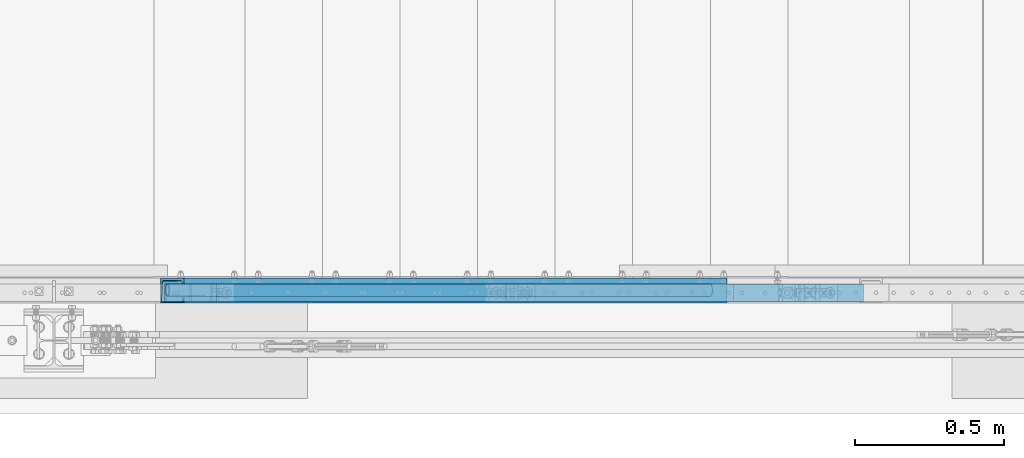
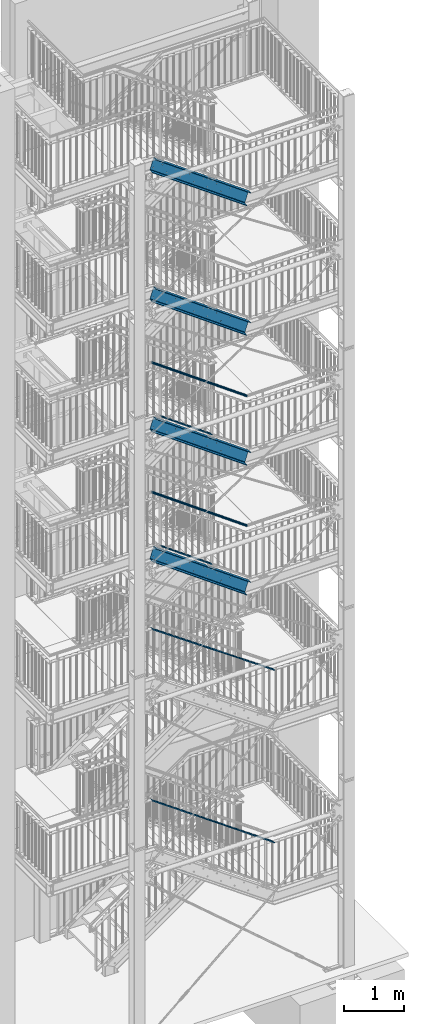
# One storey, part 121 of 831: 10 members, 64 openings.
"""IFC2X3 building model written with IfcOpenShell, lengths in millimetres."""

import ifcopenshell
import ifcopenshell.guid

model = None  # the IFC model being written
_history = None  # IfcOwnerHistory: only IFC2X3 demands one
_inside = {}  # id of a spatial element -> (the spatial element, [elements in it])
_under = {}  # id of a project, library or spatial element -> (it, [spatial elements below it])
_declared = {}  # id of a project -> (the project, [libraries it declares])
_typed = {}  # id of a type object -> (the type object, [elements of that type])
_made_of = {}  # id of a material, layer set ... -> (it, [elements and type objects made of it])


def new_model(schema):
    """Start an empty IFC model of exactly this schema.

    Asked for "IFC4X3", IfcOpenShell would pick the latest addendum, in which some entities
    have other attributes; the version numbers below select the first issue.
    IFC2X3 requires an IfcOwnerHistory on every rooted entity: one is made here for all.
    """
    global model, _history
    if schema == "IFC4X3":
        model = ifcopenshell.file(schema_version=(4, 3, 0, 0))
    else:
        model = ifcopenshell.file(schema=schema)
    _inside.clear()
    _under.clear()
    _declared.clear()
    _typed.clear()
    _made_of.clear()
    _history = None
    if model.schema == "IFC2X3":
        org = make("IfcOrganization", Name="unknown")
        user = make(
            "IfcPersonAndOrganization",
            ThePerson=make("IfcPerson", FamilyName="unknown"),
            TheOrganization=org,
        )
        app = make(
            "IfcApplication",
            ApplicationDeveloper=org,
            Version="unknown",
            ApplicationFullName="unknown",
            ApplicationIdentifier="unknown",
        )
        _history = make(
            "IfcOwnerHistory",
            OwningUser=user,
            OwningApplication=app,
            ChangeAction="ADDED",
            CreationDate=0,
        )
    return model


def make(cls, **values):
    """One entity of the class cls with the attributes given. An attribute that is None is left unset."""
    return model.create_entity(
        cls, **{name: value for name, value in values.items() if value is not None}
    )


def entity(cls, *values):
    """Any entity or typed value of the class cls, its attributes in the order of the schema. None: left unset."""
    e = model.create_entity(cls)
    for i, value in enumerate(values):
        if value is not None:
            e[i] = value
    return e


def rooted(cls, **values):
    """An entity with a GlobalId (a new one), such as an element, a storey or a relation."""
    return make(cls, GlobalId=ifcopenshell.guid.new(), OwnerHistory=_history, **values)


def si_unit(unit_type, name, prefix=None):
    """IfcSIUnit, for example si_unit("LENGTHUNIT", "METRE", prefix="MILLI")."""
    return make("IfcSIUnit", UnitType=unit_type, Prefix=prefix, Name=name)


def converted_unit(unit_type, name, factor, base, dimensions=None, offset=None):
    """IfcConversionBasedUnit, such as the inch: factor (a typed value) times the base unit."""
    return make(
        "IfcConversionBasedUnit"
        if offset is None
        else "IfcConversionBasedUnitWithOffset",
        ConversionOffset=offset,
        Dimensions=None
        if dimensions is None
        else entity("IfcDimensionalExponents", *dimensions),
        UnitType=unit_type,
        Name=name,
        ConversionFactor=make(
            "IfcMeasureWithUnit", ValueComponent=factor, UnitComponent=base
        ),
    )


def assignment(units):
    """IfcUnitAssignment: the units of a project."""
    return None if units is None else make("IfcUnitAssignment", Units=units)


def point(xyz):
    """IfcCartesianPoint."""
    return None if xyz is None else make("IfcCartesianPoint", Coordinates=xyz)


def direction(xyz):
    """IfcDirection."""
    return None if xyz is None else make("IfcDirection", DirectionRatios=xyz)


def frame(location, z_axis=None, x_axis=None):
    """IfcAxis2Placement3D, a coordinate frame: its origin and axes. An axis left out is left unset."""
    return make(
        "IfcAxis2Placement3D",
        Location=point(location),
        Axis=direction(z_axis),
        RefDirection=direction(x_axis),
    )


def frame_2d(location, x_axis=None):
    """IfcAxis2Placement2D, a coordinate frame in the plane: its origin and x axis."""
    return make(
        "IfcAxis2Placement2D", Location=point(location), RefDirection=direction(x_axis)
    )


def origin():
    """The frame at (0, 0, 0) with its axes left unset."""
    return frame((0.0, 0.0, 0.0))


def origin_with_axes():
    """The frame at (0, 0, 0) with the z axis (0, 0, 1) and the x axis (1, 0, 0) written out."""
    return frame((0.0, 0.0, 0.0), z_axis=(0.0, 0.0, 1.0), x_axis=(1.0, 0.0, 0.0))


def origin_2d():
    """The frame at (0, 0) in the plane with its x axis left unset."""
    return frame_2d((0.0, 0.0))


def origin_2d_with_axis():
    """The frame at (0, 0) in the plane with the x axis (1, 0) written out."""
    return frame_2d((0.0, 0.0), x_axis=(1.0, 0.0))


def place(relative_to, where):
    """IfcLocalPlacement: puts the frame where relative to a parent placement (None: the world)."""
    return make(
        "IfcLocalPlacement", PlacementRelTo=relative_to, RelativePlacement=where
    )


def context(
    kind, dimensions, precision=None, world=None, true_north=None, identifier=None
):
    """IfcGeometricRepresentationContext, for example the 3D "Model" context."""
    return make(
        "IfcGeometricRepresentationContext",
        ContextIdentifier=identifier,
        ContextType=kind,
        CoordinateSpaceDimension=dimensions,
        Precision=precision,
        WorldCoordinateSystem=world,
        TrueNorth=true_north,
    )


def project(units=None, contexts=None):
    """IfcProject with its units and contexts."""
    return rooted(
        "IfcProject",
        Name="project",
        RepresentationContexts=contexts,
        UnitsInContext=assignment(units),
    )


def spatial(cls, under=None, at=None, **own):
    """A site, building, storey or space (cls), placed at a placement, below another one or the project."""
    s = rooted(cls, ObjectPlacement=at, **own)
    if under is not None:
        _under.setdefault(under.id(), (under, []))[1].append(s)
    return s


def profile(cls, at=None, kind="AREA", **sizes):
    """A parametric profile (cls). Its sizes go by their IFC names, for example OverallWidth=200.0."""
    return make(cls, ProfileType=kind, Position=at, **sizes)


def rectangle(**sizes):
    """IfcRectangleProfileDef."""
    return profile("IfcRectangleProfileDef", **sizes)


def circle(**sizes):
    """IfcCircleProfileDef."""
    return profile("IfcCircleProfileDef", **sizes)


def hollow_circle(**sizes):
    """IfcCircleHollowProfileDef."""
    return profile("IfcCircleHollowProfileDef", **sizes)


def u_section(**sizes):
    """IfcUShapeProfileDef."""
    return profile("IfcUShapeProfileDef", **sizes)


def extrude(swept, where, along, depth):
    """IfcExtrudedAreaSolid: the profile swept, set in the frame where, extruded along a direction by depth."""
    return make(
        "IfcExtrudedAreaSolid",
        SweptArea=swept,
        Position=where,
        ExtrudedDirection=direction(along),
        Depth=depth,
    )


def clip(a, b, op="DIFFERENCE"):
    """IfcBooleanClippingResult: the solid a cut by the half space b."""
    return make(
        "IfcBooleanClippingResult", Operator=op, FirstOperand=a, SecondOperand=b
    )


def halfspace(plane, agree):
    """IfcHalfSpaceSolid: all space on one side of the plane z = 0 of the frame plane."""
    return make(
        "IfcHalfSpaceSolid",
        BaseSurface=make("IfcPlane", Position=plane),
        AgreementFlag=agree,
    )


def shape(context_of_items, identifier, shape_type, items):
    """IfcShapeRepresentation: the items that make up one representation, for example the "Body"."""
    return make(
        "IfcShapeRepresentation",
        ContextOfItems=context_of_items,
        RepresentationIdentifier=identifier,
        RepresentationType=shape_type,
        Items=items,
    )


def material(Name=None, Category=None):
    """IfcMaterial."""
    return make("IfcMaterial", Name=Name, Category=Category)


def made_of(thing, what):
    """Note that an element or type object is made of a material, layer set ...; save() writes the relation."""
    if what is not None:
        _made_of.setdefault(what.id(), (what, []))[1].append(thing)
    return thing


def element(
    cls,
    number,
    at=None,
    inside=None,
    cuts=None,
    type_object=None,
    material=None,
    context=None,
    identifier="Body",
    shape_type=None,
    held_by="IfcProductDefinitionShape",
    body=None,
    shapes=None,
    **own,
):
    """One element of the class cls, such as IfcWall. Its Tag is "e" and its number.

    at: its placement. inside: the storey or other place that contains it. cuts: it is an
    opening in that element (IfcRelVoidsElement). A single representation is given by context,
    identifier, shape_type and body (its items); several are given by shapes. held_by: the class
    of the entity that holds the representations. save() writes the other relations.
    """
    e = rooted(cls, Tag="e%d" % number, ObjectPlacement=at, **own)
    if body is not None:
        shapes = [shape(context, identifier, shape_type, body)]
    if shapes is not None:
        e.Representation = make(held_by, Representations=shapes)
    if inside is not None:
        _inside.setdefault(inside.id(), (inside, []))[1].append(e)
    if cuts is not None:
        rooted(
            "IfcRelVoidsElement", RelatingBuildingElement=cuts, RelatedOpeningElement=e
        )
    if type_object is not None:
        _typed.setdefault(type_object.id(), (type_object, []))[1].append(e)
    return made_of(e, material)


def aggregate(whole, parts):
    """IfcRelAggregates: a whole, such as a stair, and the parts it consists of."""
    return rooted("IfcRelAggregates", RelatingObject=whole, RelatedObjects=parts)


def save(model, path):
    """Write the relations noted so far, then the file.

    IfcRelAggregates (storeys below a building ...), IfcRelContainedInSpatialStructure (elements
    in a storey), IfcRelDefinesByType, IfcRelAssociatesMaterial and IfcRelDeclares: one each for
    every whole, place, type object, material and project.
    """
    for whole, parts in _under.values():
        aggregate(whole, parts)
    for where, things in _inside.values():
        rooted(
            "IfcRelContainedInSpatialStructure",
            RelatedElements=things,
            RelatingStructure=where,
        )
    for kind, things in _typed.values():
        rooted("IfcRelDefinesByType", RelatedObjects=things, RelatingType=kind)
    for what, things in _made_of.values():
        rooted("IfcRelAssociatesMaterial", RelatedObjects=things, RelatingMaterial=what)
    for by, libraries in _declared.values():
        rooted("IfcRelDeclares", RelatingContext=by, RelatedDefinitions=libraries)
    model.write(path)


model = new_model("IFC2X3")

# Units and contexts
model_context = context("Model", 3, precision=1e-09, world=origin_with_axes())
ifc_project = project(units=[si_unit("LENGTHUNIT", "METRE", prefix="MILLI"), si_unit("AREAUNIT", "SQUARE_METRE"), si_unit("VOLUMEUNIT", "CUBIC_METRE"), converted_unit("PLANEANGLEUNIT", "DEGREE", entity("IfcPlaneAngleMeasure", 0.01745329), si_unit("PLANEANGLEUNIT", "RADIAN"), dimensions=[0, 0, 0, 0, 0, 0, 0])], contexts=[model_context])

# Site, building, storey
site_placement = place(None, origin_with_axes())
site = spatial("IfcSite", under=ifc_project, at=site_placement, Name="Site", CompositionType="ELEMENT")
building_placement = place(site_placement, origin_with_axes())
building = spatial("IfcBuilding", under=site, at=building_placement, Name="Struktur 1", CompositionType="ELEMENT")
storey_placement = place(building_placement, origin_with_axes())
storey = spatial("IfcBuildingStorey", under=building, at=storey_placement, Name="Default Storey", CompositionType="ELEMENT", Elevation=0.0)

# Members
ifc_material = material(Name="S235JR")
member_1_placement = place(None, frame((7567.131328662, 4526.736971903, 6689.604420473), z_axis=(0.818063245, 0.0, -0.57512827), x_axis=(-0.57512827, 0.0, -0.818063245)))
element("IfcMember", 1, at=member_1_placement, inside=storey, material=ifc_material, Name="Railing_Kneerail_Stair#1014", ObjectType="Railing_Kneerail_Stair#1014", context=model_context, shape_type="SweptSolid", body=[
    extrude(rectangle(XDim=10.0, YDim=60.0, at=origin_2d()), origin(), (0.0, 0.0, -1.0), 2857.25112589),
])
member_2_placement = place(None, frame((7567.037819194, 4526.736971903, 3195.779456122), z_axis=(0.814635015, 0.0, -0.579973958), x_axis=(-0.579973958, 0.0, -0.814635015)))
element("IfcMember", 2, at=member_2_placement, inside=storey, material=ifc_material, Name="Railing_Kneerail_Stair#1015", ObjectType="Railing_Kneerail_Stair#1015", context=model_context, shape_type="SweptSolid", body=[
    extrude(rectangle(XDim=10.0, YDim=60.0, at=origin_2d()), origin(), (0.0, 0.0, -1.0), 2869.25593343),
])

# Member, openings
member_3_placement = place(None, frame((7252.357329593, 4554.436971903, 8386.450295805), z_axis=(-0.810350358, 0.0, 0.585945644), x_axis=(0.0, -1.0, 0.0)))
member_3 = element("IfcMember", 3, at=member_3_placement, inside=storey, material=ifc_material, Name="Stringer#1", ObjectType="Stringer#1", context=model_context, shape_type="Clipping", body=[
    clip(clip(extrude(u_section(Depth=240.0, FlangeWidth=85.0, WebThickness=9.5, FlangeThickness=13.0, FilletRadius=13.0, EdgeRadius=6.5, FlangeSlope=4.574, at=frame_2d((20.2, 0.0))), origin(), (0.0, 0.0, 1.0), 2765.811710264), halfspace(frame((4554.436971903, -9780.725399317, -2944.574754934), z_axis=(0.0, -0.307936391, 0.951406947), x_axis=(1.0, 0.0, 0.0)), True)), halfspace(frame((4554.436971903, -10438.724783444, -911.605598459), z_axis=(0.0, 0.307936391, -0.951406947), x_axis=(-1.0, 0.0, 0.0)), True)),
])
opening_1_placement = place(member_3_placement, frame((-22.8, -50.547583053, 2395.29207482), z_axis=(1.0, 0.0, 0.0), x_axis=(0.0, -0.585945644, 0.810350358)))
element("IfcOpeningElement", 4, at=opening_1_placement, cuts=member_3, ObjectType="Opening", context=model_context, shape_type="SweptSolid", body=[
    extrude(circle(Radius=7.001, at=origin_2d_with_axis()), origin(), (0.0, 0.0, 1.0), 10.5),
])
opening_2_placement = place(member_3_placement, frame((-22.8, 54.922632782, 1286.882388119), z_axis=(1.0, 0.0, 0.0), x_axis=(0.0, -0.585945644, 0.810350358)))
element("IfcOpeningElement", 5, at=opening_2_placement, cuts=member_3, ObjectType="Opening", context=model_context, shape_type="SweptSolid", body=[
    extrude(circle(Radius=7.001, at=origin_2d_with_axis()), origin(), (0.0, 0.0, 1.0), 10.5),
])
opening_3_placement = place(member_3_placement, frame((-22.8, -50.547583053, 1111.89657849), z_axis=(1.0, 0.0, 0.0), x_axis=(0.0, -0.585945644, 0.810350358)))
element("IfcOpeningElement", 6, at=opening_3_placement, cuts=member_3, ObjectType="Opening", context=model_context, shape_type="SweptSolid", body=[
    extrude(circle(Radius=7.001, at=origin_2d_with_axis()), origin(), (0.0, 0.0, 1.0), 10.5),
])
opening_4_placement = place(member_3_placement, frame((-22.8, -50.547583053, 791.047704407), z_axis=(1.0, 0.0, 0.0), x_axis=(0.0, -0.585945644, 0.810350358)))
element("IfcOpeningElement", 7, at=opening_4_placement, cuts=member_3, ObjectType="Opening", context=model_context, shape_type="SweptSolid", body=[
    extrude(circle(Radius=7.001, at=origin_2d_with_axis()), origin(), (0.0, 0.0, 1.0), 10.5),
])
opening_5_placement = place(member_3_placement, frame((-22.8, 54.922632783, 1928.580136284), z_axis=(1.0, 0.0, 0.0), x_axis=(0.0, -0.585945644, 0.810350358)))
element("IfcOpeningElement", 8, at=opening_5_placement, cuts=member_3, ObjectType="Opening", context=model_context, shape_type="SweptSolid", body=[
    extrude(circle(Radius=7.001, at=origin_2d_with_axis()), origin(), (0.0, 0.0, 1.0), 10.5),
])
opening_6_placement = place(member_3_placement, frame((-22.8, -50.547583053, 1432.745452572), z_axis=(1.0, 0.0, 0.0), x_axis=(0.0, -0.585945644, 0.810350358)))
element("IfcOpeningElement", 9, at=opening_6_placement, cuts=member_3, ObjectType="Opening", context=model_context, shape_type="SweptSolid", body=[
    extrude(circle(Radius=7.001, at=origin_2d_with_axis()), origin(), (0.0, 0.0, 1.0), 10.5),
])
opening_7_placement = place(member_3_placement, frame((-22.8, 54.922632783, 1607.731262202), z_axis=(1.0, 0.0, 0.0), x_axis=(0.0, -0.585945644, 0.810350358)))
element("IfcOpeningElement", 10, at=opening_7_placement, cuts=member_3, ObjectType="Opening", context=model_context, shape_type="SweptSolid", body=[
    extrude(circle(Radius=7.001, at=origin_2d_with_axis()), origin(), (0.0, 0.0, 1.0), 10.5),
])
opening_8_placement = place(member_3_placement, frame((-22.8, -50.547583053, 2074.443200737), z_axis=(1.0, 0.0, 0.0), x_axis=(0.0, -0.585945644, 0.810350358)))
element("IfcOpeningElement", 11, at=opening_8_placement, cuts=member_3, ObjectType="Opening", context=model_context, shape_type="SweptSolid", body=[
    extrude(circle(Radius=7.001, at=origin_2d_with_axis()), origin(), (0.0, 0.0, 1.0), 10.5),
])
opening_9_placement = place(member_3_placement, frame((-22.8, -50.547583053, 1753.594326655), z_axis=(1.0, 0.0, 0.0), x_axis=(0.0, -0.585945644, 0.810350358)))
element("IfcOpeningElement", 12, at=opening_9_placement, cuts=member_3, ObjectType="Opening", context=model_context, shape_type="SweptSolid", body=[
    extrude(circle(Radius=7.001, at=origin_2d_with_axis()), origin(), (0.0, 0.0, 1.0), 10.5),
])
opening_10_placement = place(member_3_placement, frame((-22.8, 54.922632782, 966.033514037), z_axis=(1.0, 0.0, 0.0), x_axis=(0.0, -0.585945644, 0.810350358)))
element("IfcOpeningElement", 13, at=opening_10_placement, cuts=member_3, ObjectType="Opening", context=model_context, shape_type="SweptSolid", body=[
    extrude(circle(Radius=7.001, at=origin_2d_with_axis()), origin(), (0.0, 0.0, 1.0), 10.5),
])
opening_11_placement = place(member_3_placement, frame((-22.8, 54.922632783, 2249.429010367), z_axis=(1.0, 0.0, 0.0), x_axis=(0.0, -0.585945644, 0.810350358)))
element("IfcOpeningElement", 14, at=opening_11_placement, cuts=member_3, ObjectType="Opening", context=model_context, shape_type="SweptSolid", body=[
    extrude(circle(Radius=7.001, at=origin_2d_with_axis()), origin(), (0.0, 0.0, 1.0), 10.5),
])
opening_12_placement = place(member_3_placement, frame((-22.8, 54.922632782, 645.184639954), z_axis=(1.0, 0.0, 0.0), x_axis=(0.0, -0.585945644, 0.810350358)))
element("IfcOpeningElement", 15, at=opening_12_placement, cuts=member_3, ObjectType="Opening", context=model_context, shape_type="SweptSolid", body=[
    extrude(circle(Radius=7.001, at=origin_2d_with_axis()), origin(), (0.0, 0.0, 1.0), 10.5),
])
opening_13_placement = place(member_3_placement, frame((27.7, 120.5, 1220.97518133), z_axis=(0.0, 1.0, 0.0), x_axis=(-1.0, 0.0, 0.0)))
element("IfcOpeningElement", 16, at=opening_13_placement, cuts=member_3, ObjectType="Opening", context=model_context, shape_type="SweptSolid", body=[
    extrude(circle(Radius=7.001, at=frame_2d((0.0, 7.001), x_axis=(1.0, 0.0))), origin(), (0.0, 0.0, -1.0), 14.0),
])
opening_14_placement = place(member_3_placement, frame((27.7, 120.5, 1120.97518133), z_axis=(0.0, 1.0, 0.0), x_axis=(-1.0, 0.0, 0.0)))
element("IfcOpeningElement", 17, at=opening_14_placement, cuts=member_3, ObjectType="Opening", context=model_context, shape_type="SweptSolid", body=[
    extrude(circle(Radius=7.001, at=frame_2d((0.0, 7.001), x_axis=(1.0, 0.0))), origin(), (0.0, 0.0, -1.0), 14.0),
])
opening_15_placement = place(member_3_placement, frame((27.7, 120.5, 2436.498976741), z_axis=(0.0, 1.0, 0.0), x_axis=(-1.0, 0.0, 0.0)))
element("IfcOpeningElement", 18, at=opening_15_placement, cuts=member_3, ObjectType="Opening", context=model_context, shape_type="SweptSolid", body=[
    extrude(circle(Radius=7.001, at=frame_2d((0.0, 7.001), x_axis=(1.0, 0.0))), origin(), (0.0, 0.0, -1.0), 14.0),
])
opening_16_placement = place(member_3_placement, frame((27.7, 120.5, 2336.498976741), z_axis=(0.0, 1.0, 0.0), x_axis=(-1.0, 0.0, 0.0)))
element("IfcOpeningElement", 19, at=opening_16_placement, cuts=member_3, ObjectType="Opening", context=model_context, shape_type="SweptSolid", body=[
    extrude(circle(Radius=7.001, at=frame_2d((0.0, 7.001), x_axis=(1.0, 0.0))), origin(), (0.0, 0.0, -1.0), 14.0),
])

member_4_placement = place(None, frame((7252.657044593, 4554.436971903, 11016.099256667), z_axis=(-0.810878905, 0.0, 0.585213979), x_axis=(0.0, -1.0, 0.0)))
member_4 = element("IfcMember", 20, at=member_4_placement, inside=storey, material=ifc_material, Name="Stringer#1", ObjectType="Stringer#1", context=model_context, shape_type="Clipping", body=[
    clip(clip(extrude(u_section(Depth=240.0, FlangeWidth=85.0, WebThickness=9.5, FlangeThickness=13.0, FilletRadius=13.0, EdgeRadius=6.5, FlangeSlope=4.574, at=frame_2d((20.2, 0.0))), origin(), (0.0, 0.0, 1.0), 2764.271886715), halfspace(frame((4554.436971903, -12161.289703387, -3708.993877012), z_axis=(0.0, -0.307506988, 0.951545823), x_axis=(1.0, 0.0, 0.0)), True)), halfspace(frame((4554.436971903, -12818.039088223, -1676.756695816), z_axis=(0.0, 0.307506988, -0.951545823), x_axis=(-1.0, 0.0, 0.0)), True)),
])
opening_17_placement = place(member_4_placement, frame((-22.8, -50.419345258, 1111.679598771), z_axis=(1.0, 0.0, 0.0), x_axis=(0.0, -0.585213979, 0.810878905)))
element("IfcOpeningElement", 21, at=opening_17_placement, cuts=member_4, ObjectType="Opening", context=model_context, shape_type="SweptSolid", body=[
    extrude(circle(Radius=7.001, at=origin_2d_with_axis()), origin(), (0.0, 0.0, 1.0), 10.5),
])
opening_18_placement = place(member_4_placement, frame((-22.8, -50.419345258, 1752.959075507), z_axis=(1.0, 0.0, 0.0), x_axis=(0.0, -0.585213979, 0.810878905)))
element("IfcOpeningElement", 22, at=opening_18_placement, cuts=member_4, ObjectType="Opening", context=model_context, shape_type="SweptSolid", body=[
    extrude(circle(Radius=7.001, at=origin_2d_with_axis()), origin(), (0.0, 0.0, 1.0), 10.5),
])
opening_19_placement = place(member_4_placement, frame((-22.8, 54.919170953, 645.081657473), z_axis=(1.0, 0.0, 0.0), x_axis=(0.0, -0.585213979, 0.810878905)))
element("IfcOpeningElement", 23, at=opening_19_placement, cuts=member_4, ObjectType="Opening", context=model_context, shape_type="SweptSolid", body=[
    extrude(circle(Radius=7.001, at=origin_2d_with_axis()), origin(), (0.0, 0.0, 1.0), 10.5),
])
opening_20_placement = place(member_4_placement, frame((-22.8, 54.919170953, 2248.280349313), z_axis=(1.0, 0.0, 0.0), x_axis=(0.0, -0.585213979, 0.810878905)))
element("IfcOpeningElement", 24, at=opening_20_placement, cuts=member_4, ObjectType="Opening", context=model_context, shape_type="SweptSolid", body=[
    extrude(circle(Radius=7.001, at=origin_2d_with_axis()), origin(), (0.0, 0.0, 1.0), 10.5),
])
opening_21_placement = place(member_4_placement, frame((-22.8, -50.419345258, 791.039860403), z_axis=(1.0, 0.0, 0.0), x_axis=(0.0, -0.585213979, 0.810878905)))
element("IfcOpeningElement", 25, at=opening_21_placement, cuts=member_4, ObjectType="Opening", context=model_context, shape_type="SweptSolid", body=[
    extrude(circle(Radius=7.001, at=origin_2d_with_axis()), origin(), (0.0, 0.0, 1.0), 10.5),
])
opening_22_placement = place(member_4_placement, frame((-22.8, -50.419345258, 1432.319337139), z_axis=(1.0, 0.0, 0.0), x_axis=(0.0, -0.585213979, 0.810878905)))
element("IfcOpeningElement", 26, at=opening_22_placement, cuts=member_4, ObjectType="Opening", context=model_context, shape_type="SweptSolid", body=[
    extrude(circle(Radius=7.001, at=origin_2d_with_axis()), origin(), (0.0, 0.0, 1.0), 10.5),
])
opening_23_placement = place(member_4_placement, frame((-22.8, -50.419345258, 2394.238552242), z_axis=(1.0, 0.0, 0.0), x_axis=(0.0, -0.585213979, 0.810878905)))
element("IfcOpeningElement", 27, at=opening_23_placement, cuts=member_4, ObjectType="Opening", context=model_context, shape_type="SweptSolid", body=[
    extrude(circle(Radius=7.001, at=origin_2d_with_axis()), origin(), (0.0, 0.0, 1.0), 10.5),
])
opening_24_placement = place(member_4_placement, frame((-22.8, 54.919170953, 1607.000872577), z_axis=(1.0, 0.0, 0.0), x_axis=(0.0, -0.585213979, 0.810878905)))
element("IfcOpeningElement", 28, at=opening_24_placement, cuts=member_4, ObjectType="Opening", context=model_context, shape_type="SweptSolid", body=[
    extrude(circle(Radius=7.001, at=origin_2d_with_axis()), origin(), (0.0, 0.0, 1.0), 10.5),
])
opening_25_placement = place(member_4_placement, frame((-22.8, 54.919170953, 1927.640610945), z_axis=(1.0, 0.0, 0.0), x_axis=(0.0, -0.585213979, 0.810878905)))
element("IfcOpeningElement", 29, at=opening_25_placement, cuts=member_4, ObjectType="Opening", context=model_context, shape_type="SweptSolid", body=[
    extrude(circle(Radius=7.001, at=origin_2d_with_axis()), origin(), (0.0, 0.0, 1.0), 10.5),
])
opening_26_placement = place(member_4_placement, frame((-22.8, 54.919170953, 965.721395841), z_axis=(1.0, 0.0, 0.0), x_axis=(0.0, -0.585213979, 0.810878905)))
element("IfcOpeningElement", 30, at=opening_26_placement, cuts=member_4, ObjectType="Opening", context=model_context, shape_type="SweptSolid", body=[
    extrude(circle(Radius=7.001, at=origin_2d_with_axis()), origin(), (0.0, 0.0, 1.0), 10.5),
])
opening_27_placement = place(member_4_placement, frame((-22.8, 54.919170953, 1286.361134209), z_axis=(1.0, 0.0, 0.0), x_axis=(0.0, -0.585213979, 0.810878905)))
element("IfcOpeningElement", 31, at=opening_27_placement, cuts=member_4, ObjectType="Opening", context=model_context, shape_type="SweptSolid", body=[
    extrude(circle(Radius=7.001, at=origin_2d_with_axis()), origin(), (0.0, 0.0, 1.0), 10.5),
])
opening_28_placement = place(member_4_placement, frame((-22.8, -50.419345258, 2073.598813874), z_axis=(1.0, 0.0, 0.0), x_axis=(0.0, -0.585213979, 0.810878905)))
element("IfcOpeningElement", 32, at=opening_28_placement, cuts=member_4, ObjectType="Opening", context=model_context, shape_type="SweptSolid", body=[
    extrude(circle(Radius=7.001, at=origin_2d_with_axis()), origin(), (0.0, 0.0, 1.0), 10.5),
])
opening_29_placement = place(member_4_placement, frame((27.7, 120.5, 1220.472067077), z_axis=(0.0, 1.0, 0.0), x_axis=(-1.0, 0.0, 0.0)))
element("IfcOpeningElement", 33, at=opening_29_placement, cuts=member_4, ObjectType="Opening", context=model_context, shape_type="SweptSolid", body=[
    extrude(circle(Radius=7.001, at=frame_2d((0.0, 7.001), x_axis=(1.0, 0.0))), origin(), (0.0, 0.0, -1.0), 14.0),
])
opening_30_placement = place(member_4_placement, frame((27.7, 120.5, 1120.472067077), z_axis=(0.0, 1.0, 0.0), x_axis=(-1.0, 0.0, 0.0)))
element("IfcOpeningElement", 34, at=opening_30_placement, cuts=member_4, ObjectType="Opening", context=model_context, shape_type="SweptSolid", body=[
    extrude(circle(Radius=7.001, at=frame_2d((0.0, 7.001), x_axis=(1.0, 0.0))), origin(), (0.0, 0.0, -1.0), 14.0),
])
opening_31_placement = place(member_4_placement, frame((27.7, 120.5, 2435.203559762), z_axis=(0.0, 1.0, 0.0), x_axis=(-1.0, 0.0, 0.0)))
element("IfcOpeningElement", 35, at=opening_31_placement, cuts=member_4, ObjectType="Opening", context=model_context, shape_type="SweptSolid", body=[
    extrude(circle(Radius=7.001, at=frame_2d((0.0, 7.001), x_axis=(1.0, 0.0))), origin(), (0.0, 0.0, -1.0), 14.0),
])
opening_32_placement = place(member_4_placement, frame((27.7, 120.5, 2335.203559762), z_axis=(0.0, 1.0, 0.0), x_axis=(-1.0, 0.0, 0.0)))
element("IfcOpeningElement", 36, at=opening_32_placement, cuts=member_4, ObjectType="Opening", context=model_context, shape_type="SweptSolid", body=[
    extrude(circle(Radius=7.001, at=frame_2d((0.0, 7.001), x_axis=(1.0, 0.0))), origin(), (0.0, 0.0, -1.0), 14.0),
])

member_5_placement = place(None, frame((7252.177764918, 4554.436971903, 13646.861065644), z_axis=(-0.810033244, 0.0, 0.586383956), x_axis=(0.0, -1.0, 0.0)))
member_5 = element("IfcMember", 37, at=member_5_placement, inside=storey, material=ifc_material, Name="Stringer#1", ObjectType="Stringer#1", context=model_context, shape_type="Clipping", body=[
    clip(clip(extrude(u_section(Depth=240.0, FlangeWidth=85.0, WebThickness=9.5, FlangeThickness=13.0, FilletRadius=13.0, EdgeRadius=6.5, FlangeSlope=4.574, at=frame_2d((20.2, 0.0))), origin(), (0.0, 0.0, 1.0), 2766.736495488), halfspace(frame((4554.436971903, -14541.73622123, -4489.902696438), z_axis=(0.0, -0.308193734, 0.951323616), x_axis=(1.0, 0.0, 0.0)), True)), halfspace(frame((4554.436971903, -15200.485604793, -2456.493916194), z_axis=(0.0, 0.308193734, -0.951323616), x_axis=(-1.0, 0.0, 0.0)), True)),
])
opening_33_placement = place(member_5_placement, frame((-22.8, -50.624378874, 2395.925170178), z_axis=(1.0, 0.0, 0.0), x_axis=(0.0, -0.586383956, 0.810033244)))
element("IfcOpeningElement", 38, at=opening_33_placement, cuts=member_5, ObjectType="Opening", context=model_context, shape_type="SweptSolid", body=[
    extrude(circle(Radius=7.001, at=origin_2d_with_axis()), origin(), (0.0, 0.0, 1.0), 10.5),
])
opening_34_placement = place(member_5_placement, frame((-22.8, 54.924733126, 1608.170224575), z_axis=(1.0, 0.0, 0.0), x_axis=(0.0, -0.586383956, 0.810033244)))
element("IfcOpeningElement", 39, at=opening_34_placement, cuts=member_5, ObjectType="Opening", context=model_context, shape_type="SweptSolid", body=[
    extrude(circle(Radius=7.001, at=origin_2d_with_axis()), origin(), (0.0, 0.0, 1.0), 10.5),
])
opening_35_placement = place(member_5_placement, frame((-22.8, -50.624378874, 1433.001727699), z_axis=(1.0, 0.0, 0.0), x_axis=(0.0, -0.586383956, 0.810033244)))
element("IfcOpeningElement", 40, at=opening_35_placement, cuts=member_5, ObjectType="Opening", context=model_context, shape_type="SweptSolid", body=[
    extrude(circle(Radius=7.001, at=origin_2d_with_axis()), origin(), (0.0, 0.0, 1.0), 10.5),
])
opening_36_placement = place(member_5_placement, frame((-22.8, -50.624378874, 1112.027246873), z_axis=(1.0, 0.0, 0.0), x_axis=(0.0, -0.586383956, 0.810033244)))
element("IfcOpeningElement", 41, at=opening_36_placement, cuts=member_5, ObjectType="Opening", context=model_context, shape_type="SweptSolid", body=[
    extrude(circle(Radius=7.001, at=origin_2d_with_axis()), origin(), (0.0, 0.0, 1.0), 10.5),
])
opening_37_placement = place(member_5_placement, frame((-22.8, 54.924733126, 1929.144705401), z_axis=(1.0, 0.0, 0.0), x_axis=(0.0, -0.586383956, 0.810033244)))
element("IfcOpeningElement", 42, at=opening_37_placement, cuts=member_5, ObjectType="Opening", context=model_context, shape_type="SweptSolid", body=[
    extrude(circle(Radius=7.001, at=origin_2d_with_axis()), origin(), (0.0, 0.0, 1.0), 10.5),
])
opening_38_placement = place(member_5_placement, frame((-22.8, -50.624378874, 791.052766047), z_axis=(1.0, 0.0, 0.0), x_axis=(0.0, -0.586383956, 0.810033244)))
element("IfcOpeningElement", 43, at=opening_38_placement, cuts=member_5, ObjectType="Opening", context=model_context, shape_type="SweptSolid", body=[
    extrude(circle(Radius=7.001, at=origin_2d_with_axis()), origin(), (0.0, 0.0, 1.0), 10.5),
])
opening_39_placement = place(member_5_placement, frame((-22.8, -50.624378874, 2074.950689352), z_axis=(1.0, 0.0, 0.0), x_axis=(0.0, -0.586383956, 0.810033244)))
element("IfcOpeningElement", 44, at=opening_39_placement, cuts=member_5, ObjectType="Opening", context=model_context, shape_type="SweptSolid", body=[
    extrude(circle(Radius=7.001, at=origin_2d_with_axis()), origin(), (0.0, 0.0, 1.0), 10.5),
])
opening_40_placement = place(member_5_placement, frame((-22.8, 54.924733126, 1287.195743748), z_axis=(1.0, 0.0, 0.0), x_axis=(0.0, -0.586383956, 0.810033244)))
element("IfcOpeningElement", 45, at=opening_40_placement, cuts=member_5, ObjectType="Opening", context=model_context, shape_type="SweptSolid", body=[
    extrude(circle(Radius=7.001, at=origin_2d_with_axis()), origin(), (0.0, 0.0, 1.0), 10.5),
])
opening_41_placement = place(member_5_placement, frame((-22.8, -50.624378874, 1753.976208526), z_axis=(1.0, 0.0, 0.0), x_axis=(0.0, -0.586383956, 0.810033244)))
element("IfcOpeningElement", 46, at=opening_41_placement, cuts=member_5, ObjectType="Opening", context=model_context, shape_type="SweptSolid", body=[
    extrude(circle(Radius=7.001, at=origin_2d_with_axis()), origin(), (0.0, 0.0, 1.0), 10.5),
])
opening_42_placement = place(member_5_placement, frame((-22.8, 54.924733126, 645.246782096), z_axis=(1.0, 0.0, 0.0), x_axis=(0.0, -0.586383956, 0.810033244)))
element("IfcOpeningElement", 47, at=opening_42_placement, cuts=member_5, ObjectType="Opening", context=model_context, shape_type="SweptSolid", body=[
    extrude(circle(Radius=7.001, at=origin_2d_with_axis()), origin(), (0.0, 0.0, 1.0), 10.5),
])
opening_43_placement = place(member_5_placement, frame((-22.8, 54.924733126, 966.221262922), z_axis=(1.0, 0.0, 0.0), x_axis=(0.0, -0.586383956, 0.810033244)))
element("IfcOpeningElement", 48, at=opening_43_placement, cuts=member_5, ObjectType="Opening", context=model_context, shape_type="SweptSolid", body=[
    extrude(circle(Radius=7.001, at=origin_2d_with_axis()), origin(), (0.0, 0.0, 1.0), 10.5),
])
opening_44_placement = place(member_5_placement, frame((-22.8, 54.924733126, 2250.119186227), z_axis=(1.0, 0.0, 0.0), x_axis=(0.0, -0.586383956, 0.810033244)))
element("IfcOpeningElement", 49, at=opening_44_placement, cuts=member_5, ObjectType="Opening", context=model_context, shape_type="SweptSolid", body=[
    extrude(circle(Radius=7.001, at=origin_2d_with_axis()), origin(), (0.0, 0.0, 1.0), 10.5),
])
opening_45_placement = place(member_5_placement, frame((27.7, 120.5, 1221.277568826), z_axis=(0.0, 1.0, 0.0), x_axis=(-1.0, 0.0, 0.0)))
element("IfcOpeningElement", 50, at=opening_45_placement, cuts=member_5, ObjectType="Opening", context=model_context, shape_type="SweptSolid", body=[
    extrude(circle(Radius=7.001, at=frame_2d((0.0, 7.001), x_axis=(1.0, 0.0))), origin(), (0.0, 0.0, -1.0), 14.000000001),
])
opening_46_placement = place(member_5_placement, frame((27.7, 120.500000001, 1121.277568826), z_axis=(0.0, 1.0, 0.0), x_axis=(-1.0, 0.0, 0.0)))
element("IfcOpeningElement", 51, at=opening_46_placement, cuts=member_5, ObjectType="Opening", context=model_context, shape_type="SweptSolid", body=[
    extrude(circle(Radius=7.001, at=frame_2d((0.0, 7.001), x_axis=(1.0, 0.0))), origin(), (0.0, 0.0, -1.0), 14.000000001),
])
opening_47_placement = place(member_5_placement, frame((27.7, 120.5, 2437.277220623), z_axis=(0.0, 1.0, 0.0), x_axis=(-1.0, 0.0, 0.0)))
element("IfcOpeningElement", 52, at=opening_47_placement, cuts=member_5, ObjectType="Opening", context=model_context, shape_type="SweptSolid", body=[
    extrude(circle(Radius=7.001, at=frame_2d((0.0, 7.001), x_axis=(1.0, 0.0))), origin(), (0.0, 0.0, -1.0), 14.0),
])
opening_48_placement = place(member_5_placement, frame((27.7, 120.5, 2337.277220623), z_axis=(0.0, 1.0, 0.0), x_axis=(-1.0, 0.0, 0.0)))
element("IfcOpeningElement", 53, at=opening_48_placement, cuts=member_5, ObjectType="Opening", context=model_context, shape_type="SweptSolid", body=[
    extrude(circle(Radius=7.001, at=frame_2d((0.0, 7.001), x_axis=(1.0, 0.0))), origin(), (0.0, 0.0, -1.0), 14.0),
])

member_6_placement = place(None, frame((7253.077573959, 4554.436971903, 16274.808313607), z_axis=(-0.811618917, 0.0, 0.584187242), x_axis=(0.0, -1.0, 0.0)))
member_6 = element("IfcMember", 54, at=member_6_placement, inside=storey, material=ifc_material, Name="Stringer#1", ObjectType="Stringer#1", context=model_context, shape_type="Clipping", body=[
    clip(clip(extrude(u_section(Depth=240.0, FlangeWidth=85.0, WebThickness=9.5, FlangeThickness=13.0, FilletRadius=13.0, EdgeRadius=6.5, FlangeSlope=4.574, at=frame_2d((20.2, 0.0))), origin(), (0.0, 0.0, 1.0), 2762.119260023), halfspace(frame((4554.436971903, -16925.049146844, -5236.620334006), z_axis=(0.0, -0.306904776, 0.951740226), x_axis=(1.0, 0.0, 0.0)), True)), halfspace(frame((4554.436971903, -17580.048532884, -3205.40637968), z_axis=(0.0, 0.306904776, -0.951740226), x_axis=(-1.0, 0.0, 0.0)), True)),
])
opening_49_placement = place(member_6_placement, frame((-22.8, -50.23929749, 1752.072290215), z_axis=(1.0, 0.0, 0.0), x_axis=(0.0, -0.584187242, 0.811618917)))
element("IfcOpeningElement", 55, at=opening_49_placement, cuts=member_6, ObjectType="Opening", context=model_context, shape_type="SweptSolid", body=[
    extrude(circle(Radius=7.001, at=origin_2d_with_axis()), origin(), (0.0, 0.0, 1.0), 10.5),
])
opening_50_placement = place(member_6_placement, frame((-22.8, 54.914406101, 2246.675661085), z_axis=(1.0, 0.0, 0.0), x_axis=(0.0, -0.584187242, 0.811618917)))
element("IfcOpeningElement", 56, at=opening_50_placement, cuts=member_6, ObjectType="Opening", context=model_context, shape_type="SweptSolid", body=[
    extrude(circle(Radius=7.001, at=origin_2d_with_axis()), origin(), (0.0, 0.0, 1.0), 10.5),
])
opening_51_placement = place(member_6_placement, frame((-22.8, 54.914406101, 965.286109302), z_axis=(1.0, 0.0, 0.0), x_axis=(0.0, -0.584187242, 0.811618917)))
element("IfcOpeningElement", 57, at=opening_51_placement, cuts=member_6, ObjectType="Opening", context=model_context, shape_type="SweptSolid", body=[
    extrude(circle(Radius=7.001, at=origin_2d_with_axis()), origin(), (0.0, 0.0, 1.0), 10.5),
])
opening_52_placement = place(member_6_placement, frame((-22.8, -50.23929749, 791.030126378), z_axis=(1.0, 0.0, 0.0), x_axis=(0.0, -0.584187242, 0.811618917)))
element("IfcOpeningElement", 58, at=opening_52_placement, cuts=member_6, ObjectType="Opening", context=model_context, shape_type="SweptSolid", body=[
    extrude(circle(Radius=7.001, at=origin_2d_with_axis()), origin(), (0.0, 0.0, 1.0), 10.5),
])
opening_53_placement = place(member_6_placement, frame((-22.8, 54.914406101, 1285.633497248), z_axis=(1.0, 0.0, 0.0), x_axis=(0.0, -0.584187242, 0.811618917)))
element("IfcOpeningElement", 59, at=opening_53_placement, cuts=member_6, ObjectType="Opening", context=model_context, shape_type="SweptSolid", body=[
    extrude(circle(Radius=7.001, at=origin_2d_with_axis()), origin(), (0.0, 0.0, 1.0), 10.5),
])
opening_54_placement = place(member_6_placement, frame((-22.8, -50.23929749, 2392.767066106), z_axis=(1.0, 0.0, 0.0), x_axis=(0.0, -0.584187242, 0.811618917)))
element("IfcOpeningElement", 60, at=opening_54_placement, cuts=member_6, ObjectType="Opening", context=model_context, shape_type="SweptSolid", body=[
    extrude(circle(Radius=7.001, at=origin_2d_with_axis()), origin(), (0.0, 0.0, 1.0), 10.5),
])
opening_55_placement = place(member_6_placement, frame((-22.8, 54.914406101, 1605.980885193), z_axis=(1.0, 0.0, 0.0), x_axis=(0.0, -0.584187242, 0.811618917)))
element("IfcOpeningElement", 61, at=opening_55_placement, cuts=member_6, ObjectType="Opening", context=model_context, shape_type="SweptSolid", body=[
    extrude(circle(Radius=7.001, at=origin_2d_with_axis()), origin(), (0.0, 0.0, 1.0), 10.5),
])
opening_56_placement = place(member_6_placement, frame((-22.8, -50.23929749, 2072.419678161), z_axis=(1.0, 0.0, 0.0), x_axis=(0.0, -0.584187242, 0.811618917)))
element("IfcOpeningElement", 62, at=opening_56_placement, cuts=member_6, ObjectType="Opening", context=model_context, shape_type="SweptSolid", body=[
    extrude(circle(Radius=7.001, at=origin_2d_with_axis()), origin(), (0.0, 0.0, 1.0), 10.5),
])
opening_57_placement = place(member_6_placement, frame((-22.8, -50.23929749, 1111.377514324), z_axis=(1.0, 0.0, 0.0), x_axis=(0.0, -0.584187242, 0.811618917)))
element("IfcOpeningElement", 63, at=opening_57_placement, cuts=member_6, ObjectType="Opening", context=model_context, shape_type="SweptSolid", body=[
    extrude(circle(Radius=7.001, at=origin_2d_with_axis()), origin(), (0.0, 0.0, 1.0), 10.5),
])
opening_58_placement = place(member_6_placement, frame((-22.8, 54.914406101, 1926.328273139), z_axis=(1.0, 0.0, 0.0), x_axis=(0.0, -0.584187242, 0.811618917)))
element("IfcOpeningElement", 64, at=opening_58_placement, cuts=member_6, ObjectType="Opening", context=model_context, shape_type="SweptSolid", body=[
    extrude(circle(Radius=7.001, at=origin_2d_with_axis()), origin(), (0.0, 0.0, 1.0), 10.5),
])
opening_59_placement = place(member_6_placement, frame((-22.8, -50.23929749, 1431.72490227), z_axis=(1.0, 0.0, 0.0), x_axis=(0.0, -0.584187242, 0.811618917)))
element("IfcOpeningElement", 65, at=opening_59_placement, cuts=member_6, ObjectType="Opening", context=model_context, shape_type="SweptSolid", body=[
    extrude(circle(Radius=7.001, at=origin_2d_with_axis()), origin(), (0.0, 0.0, 1.0), 10.5),
])
opening_60_placement = place(member_6_placement, frame((-22.8, 54.914406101, 644.938721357), z_axis=(1.0, 0.0, 0.0), x_axis=(0.0, -0.584187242, 0.811618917)))
element("IfcOpeningElement", 66, at=opening_60_placement, cuts=member_6, ObjectType="Opening", context=model_context, shape_type="SweptSolid", body=[
    extrude(circle(Radius=7.001, at=origin_2d_with_axis()), origin(), (0.0, 0.0, 1.0), 10.5),
])
opening_61_placement = place(member_6_placement, frame((27.7, 120.5, 1219.769530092), z_axis=(0.0, 1.0, 0.0), x_axis=(-1.0, 0.0, 0.0)))
element("IfcOpeningElement", 67, at=opening_61_placement, cuts=member_6, ObjectType="Opening", context=model_context, shape_type="SweptSolid", body=[
    extrude(circle(Radius=7.001, at=frame_2d((0.0, 7.001), x_axis=(1.0, 0.0))), origin(), (0.0, 0.0, -1.0), 14.0),
])
opening_62_placement = place(member_6_placement, frame((27.7, 120.5, 1119.769530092), z_axis=(0.0, 1.0, 0.0), x_axis=(-1.0, 0.0, 0.0)))
element("IfcOpeningElement", 68, at=opening_62_placement, cuts=member_6, ObjectType="Opening", context=model_context, shape_type="SweptSolid", body=[
    extrude(circle(Radius=7.001, at=frame_2d((0.0, 7.001), x_axis=(1.0, 0.0))), origin(), (0.0, 0.0, -1.0), 14.0),
])
opening_63_placement = place(member_6_placement, frame((27.7, 120.5, 2433.393464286), z_axis=(0.0, 1.0, 0.0), x_axis=(-1.0, 0.0, 0.0)))
element("IfcOpeningElement", 69, at=opening_63_placement, cuts=member_6, ObjectType="Opening", context=model_context, shape_type="SweptSolid", body=[
    extrude(circle(Radius=7.001, at=frame_2d((0.0, 7.001), x_axis=(1.0, 0.0))), origin(), (0.0, 0.0, -1.0), 14.0),
])
opening_64_placement = place(member_6_placement, frame((27.7, 120.5, 2333.393464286), z_axis=(0.0, 1.0, 0.0), x_axis=(-1.0, 0.0, 0.0)))
element("IfcOpeningElement", 70, at=opening_64_placement, cuts=member_6, ObjectType="Opening", context=model_context, shape_type="SweptSolid", body=[
    extrude(circle(Radius=7.001, at=frame_2d((0.0, 7.001), x_axis=(1.0, 0.0))), origin(), (0.0, 0.0, -1.0), 14.0),
])

# Members
member_7_placement = place(None, frame((7082.24966754, 4535.536971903, 9757.535316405), z_axis=(0.810350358, 0.0, -0.585945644), x_axis=(-0.585945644, 0.0, -0.810350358)))
element("IfcMember", 71, at=member_7_placement, inside=storey, material=ifc_material, Name="Gel?nder", ObjectType="Gel?nder", context=model_context, shape_type="Clipping", body=[
    clip(clip(extrude(hollow_circle(Radius=21.2, WallThickness=3.2, at=origin_2d()), origin(), (0.0, 0.0, -1.0), 2308.967362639), halfspace(frame((10916.418096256, -4535.536971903, 3501.740317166), z_axis=(0.307936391, 0.0, -0.951406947), x_axis=(0.0, -1.0, 0.0)), True)), halfspace(frame((11574.417480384, -4535.536971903, 1468.77116069), z_axis=(-0.307936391, 0.0, 0.951406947), x_axis=(0.0, 1.0, 0.0)), True)),
])
member_8_placement = place(None, frame((6369.362246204, 4526.736971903, 9253.219978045), z_axis=(0.810350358, 0.0, -0.585945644), x_axis=(-0.585945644, 0.0, -0.810350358)))
element("IfcMember", 72, at=member_8_placement, inside=storey, material=ifc_material, Name="Railing_Kneerail_Stair#16", ObjectType="Railing_Kneerail_Stair#16", context=model_context, shape_type="SweptSolid", body=[
    extrude(rectangle(XDim=10.0, YDim=60.0, at=origin_2d()), origin(), (0.0, 0.0, -1.0), 1189.782514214),
])
member_9_placement = place(None, frame((7082.262594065, 4535.536971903, 12387.061064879), z_axis=(0.810878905, 0.0, -0.585213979), x_axis=(-0.585213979, 0.0, -0.810878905)))
element("IfcMember", 73, at=member_9_placement, inside=storey, material=ifc_material, Name="Gel?nder", ObjectType="Gel?nder", context=model_context, shape_type="Clipping", body=[
    clip(clip(extrude(hollow_circle(Radius=21.2, WallThickness=3.2, at=origin_2d()), origin(), (0.0, 0.0, -1.0), 2307.494214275), halfspace(frame((13954.022486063, -4535.536971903, 2233.476534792), z_axis=(-0.307506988, 0.0, 0.951545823), x_axis=(0.0, 1.0, 0.0)), True)), halfspace(frame((13297.273101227, -4535.536971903, 4265.713715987), z_axis=(0.307506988, 0.0, -0.951545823), x_axis=(0.0, -1.0, 0.0)), True)),
])
member_10_placement = place(None, frame((6369.365904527, 4526.736971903, 11881.720890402), z_axis=(0.810878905, 0.0, -0.585213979), x_axis=(-0.585213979, 0.0, -0.810878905)))
element("IfcMember", 74, at=member_10_placement, inside=storey, material=ifc_material, Name="Railing_Kneerail_Stair#16", ObjectType="Railing_Kneerail_Stair#16", context=model_context, shape_type="SweptSolid", body=[
    extrude(rectangle(XDim=10.0, YDim=60.0, at=origin_2d()), origin(), (0.0, 0.0, -1.0), 1189.016013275),
])

save(model, "model.ifc")
